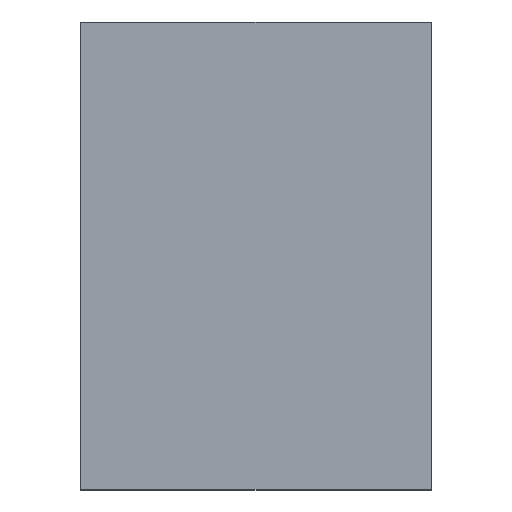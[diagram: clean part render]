
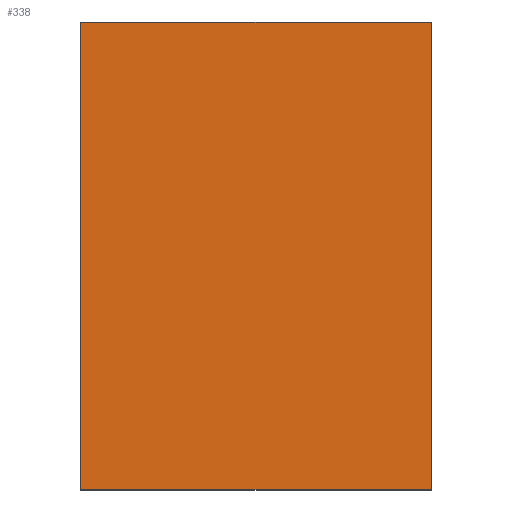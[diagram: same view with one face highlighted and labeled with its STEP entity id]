
A CAD part, top view. The second image highlights one B-rep face of the part: STEP entity #338.
In plain terms, the highlighted planar face has unit normal (0, 0, 1).
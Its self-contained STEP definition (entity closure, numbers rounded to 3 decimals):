
#24 = VERTEX_POINT('',#25);
#25 = CARTESIAN_POINT('',(-43.6,-19.15,13.57));
#32 = PLANE('',#33);
#33 = AXIS2_PLACEMENT_3D('',#34,#35,#36);
#34 = CARTESIAN_POINT('',(-43.6,-19.15,12.));
#35 = DIRECTION('',(1.,0.,0.));
#36 = DIRECTION('',(0.,0.,1.));
#44 = PLANE('',#45);
#45 = AXIS2_PLACEMENT_3D('',#46,#47,#48);
#46 = CARTESIAN_POINT('',(-43.6,-19.15,12.));
#47 = DIRECTION('',(0.,1.,0.));
#48 = DIRECTION('',(0.,0.,1.));
#85 = VERTEX_POINT('',#86);
#86 = CARTESIAN_POINT('',(-43.6,1.15,13.57));
#100 = PLANE('',#101);
#101 = AXIS2_PLACEMENT_3D('',#102,#103,#104);
#102 = CARTESIAN_POINT('',(-43.6,1.15,12.));
#103 = DIRECTION('',(0.,1.,0.));
#104 = DIRECTION('',(0.,0.,1.));
#112 = EDGE_CURVE('',#24,#85,#113,.T.);
#113 = SURFACE_CURVE('',#114,(#118,#125),.PCURVE_S1.);
#114 = LINE('',#115,#116);
#115 = CARTESIAN_POINT('',(-43.6,-19.15,13.57));
#116 = VECTOR('',#117,1.);
#117 = DIRECTION('',(0.,1.,0.));
#118 = PCURVE('',#32,#119);
#119 = DEFINITIONAL_REPRESENTATION('',(#120),#124);
#120 = LINE('',#121,#122);
#121 = CARTESIAN_POINT('',(1.57,0.));
#122 = VECTOR('',#123,1.);
#123 = DIRECTION('',(0.,-1.));
#124 = ( GEOMETRIC_REPRESENTATION_CONTEXT(2) 
PARAMETRIC_REPRESENTATION_CONTEXT() REPRESENTATION_CONTEXT('2D SPACE',''
  ) );
#125 = PCURVE('',#126,#131);
#126 = PLANE('',#127);
#127 = AXIS2_PLACEMENT_3D('',#128,#129,#130);
#128 = CARTESIAN_POINT('',(-43.6,-19.15,13.57));
#129 = DIRECTION('',(0.,0.,1.));
#130 = DIRECTION('',(1.,0.,0.));
#131 = DEFINITIONAL_REPRESENTATION('',(#132),#136);
#132 = LINE('',#133,#134);
#133 = CARTESIAN_POINT('',(0.,0.));
#134 = VECTOR('',#135,1.);
#135 = DIRECTION('',(0.,1.));
#136 = ( GEOMETRIC_REPRESENTATION_CONTEXT(2) 
PARAMETRIC_REPRESENTATION_CONTEXT() REPRESENTATION_CONTEXT('2D SPACE',''
  ) );
#144 = VERTEX_POINT('',#145);
#145 = CARTESIAN_POINT('',(-28.4,-19.15,13.57));
#152 = PLANE('',#153);
#153 = AXIS2_PLACEMENT_3D('',#154,#155,#156);
#154 = CARTESIAN_POINT('',(-28.4,-19.15,12.));
#155 = DIRECTION('',(1.,0.,0.));
#156 = DIRECTION('',(0.,0.,1.));
#195 = VERTEX_POINT('',#196);
#196 = CARTESIAN_POINT('',(-28.4,1.15,13.57));
#217 = EDGE_CURVE('',#144,#195,#218,.T.);
#218 = SURFACE_CURVE('',#219,(#223,#230),.PCURVE_S1.);
#219 = LINE('',#220,#221);
#220 = CARTESIAN_POINT('',(-28.4,-19.15,13.57));
#221 = VECTOR('',#222,1.);
#222 = DIRECTION('',(0.,1.,0.));
#223 = PCURVE('',#152,#224);
#224 = DEFINITIONAL_REPRESENTATION('',(#225),#229);
#225 = LINE('',#226,#227);
#226 = CARTESIAN_POINT('',(1.57,0.));
#227 = VECTOR('',#228,1.);
#228 = DIRECTION('',(0.,-1.));
#229 = ( GEOMETRIC_REPRESENTATION_CONTEXT(2) 
PARAMETRIC_REPRESENTATION_CONTEXT() REPRESENTATION_CONTEXT('2D SPACE',''
  ) );
#230 = PCURVE('',#126,#231);
#231 = DEFINITIONAL_REPRESENTATION('',(#232),#236);
#232 = LINE('',#233,#234);
#233 = CARTESIAN_POINT('',(15.2,0.));
#234 = VECTOR('',#235,1.);
#235 = DIRECTION('',(0.,1.));
#236 = ( GEOMETRIC_REPRESENTATION_CONTEXT(2) 
PARAMETRIC_REPRESENTATION_CONTEXT() REPRESENTATION_CONTEXT('2D SPACE',''
  ) );
#263 = EDGE_CURVE('',#24,#144,#264,.T.);
#264 = SURFACE_CURVE('',#265,(#269,#276),.PCURVE_S1.);
#265 = LINE('',#266,#267);
#266 = CARTESIAN_POINT('',(-43.6,-19.15,13.57));
#267 = VECTOR('',#268,1.);
#268 = DIRECTION('',(1.,0.,0.));
#269 = PCURVE('',#44,#270);
#270 = DEFINITIONAL_REPRESENTATION('',(#271),#275);
#271 = LINE('',#272,#273);
#272 = CARTESIAN_POINT('',(1.57,0.));
#273 = VECTOR('',#274,1.);
#274 = DIRECTION('',(0.,1.));
#275 = ( GEOMETRIC_REPRESENTATION_CONTEXT(2) 
PARAMETRIC_REPRESENTATION_CONTEXT() REPRESENTATION_CONTEXT('2D SPACE',''
  ) );
#276 = PCURVE('',#126,#277);
#277 = DEFINITIONAL_REPRESENTATION('',(#278),#282);
#278 = LINE('',#279,#280);
#279 = CARTESIAN_POINT('',(0.,0.));
#280 = VECTOR('',#281,1.);
#281 = DIRECTION('',(1.,0.));
#282 = ( GEOMETRIC_REPRESENTATION_CONTEXT(2) 
PARAMETRIC_REPRESENTATION_CONTEXT() REPRESENTATION_CONTEXT('2D SPACE',''
  ) );
#310 = EDGE_CURVE('',#85,#195,#311,.T.);
#311 = SURFACE_CURVE('',#312,(#316,#323),.PCURVE_S1.);
#312 = LINE('',#313,#314);
#313 = CARTESIAN_POINT('',(-43.6,1.15,13.57));
#314 = VECTOR('',#315,1.);
#315 = DIRECTION('',(1.,0.,0.));
#316 = PCURVE('',#100,#317);
#317 = DEFINITIONAL_REPRESENTATION('',(#318),#322);
#318 = LINE('',#319,#320);
#319 = CARTESIAN_POINT('',(1.57,0.));
#320 = VECTOR('',#321,1.);
#321 = DIRECTION('',(0.,1.));
#322 = ( GEOMETRIC_REPRESENTATION_CONTEXT(2) 
PARAMETRIC_REPRESENTATION_CONTEXT() REPRESENTATION_CONTEXT('2D SPACE',''
  ) );
#323 = PCURVE('',#126,#324);
#324 = DEFINITIONAL_REPRESENTATION('',(#325),#329);
#325 = LINE('',#326,#327);
#326 = CARTESIAN_POINT('',(0.,20.3));
#327 = VECTOR('',#328,1.);
#328 = DIRECTION('',(1.,0.));
#329 = ( GEOMETRIC_REPRESENTATION_CONTEXT(2) 
PARAMETRIC_REPRESENTATION_CONTEXT() REPRESENTATION_CONTEXT('2D SPACE',''
  ) );
#338 = ADVANCED_FACE('',(#339),#126,.T.);
#339 = FACE_BOUND('',#340,.T.);
#340 = EDGE_LOOP('',(#341,#342,#343,#344));
#341 = ORIENTED_EDGE('',*,*,#112,.F.);
#342 = ORIENTED_EDGE('',*,*,#263,.T.);
#343 = ORIENTED_EDGE('',*,*,#217,.T.);
#344 = ORIENTED_EDGE('',*,*,#310,.F.);
